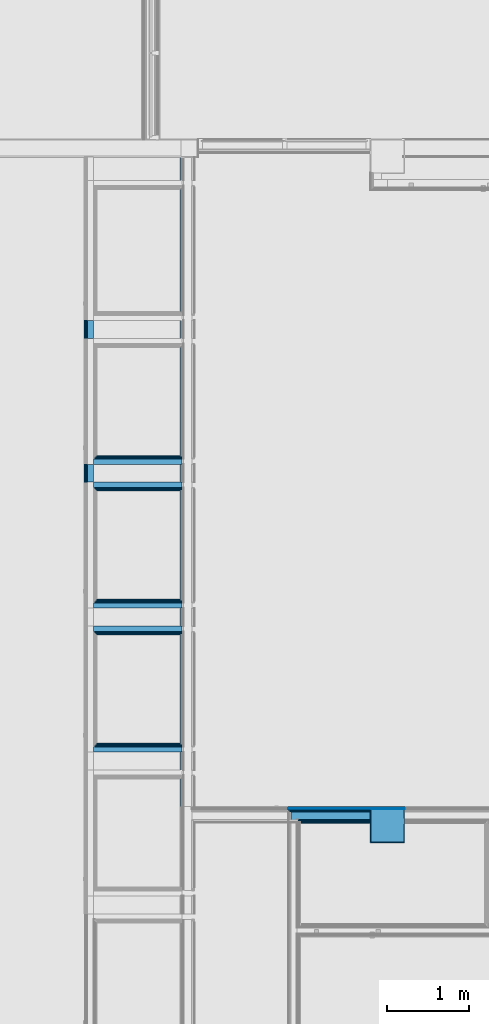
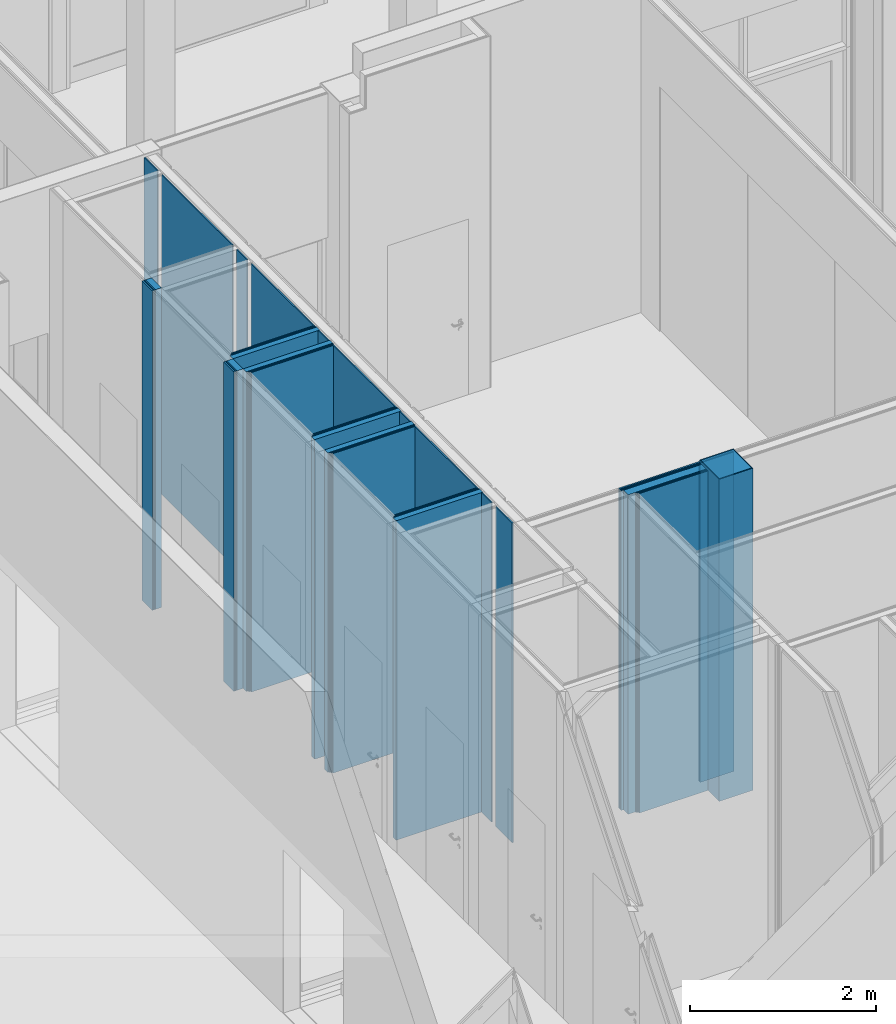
# One storey, part 206 of 260: 41 building element parts, 11 elements without a shape of their own.
"""IFC2X3 building model written with IfcOpenShell, lengths in millimetres."""

from ifc_helpers import new_model, entity, si_unit, converted_unit, derived_unit, money_unit, direction, frame, origin_with_axes, place, context, subcontext, project, spatial, faceted_brep, material, type_object, element, aggregate, save


model = new_model("IFC2X3")

# Units and contexts
model_context = context("Model", 3, precision=0.01, world=origin_with_axes(), true_north=direction((0.0, 1.0)))
body_context = subcontext(model_context, "Body", "Model", "MODEL_VIEW")
ifc_project = project(units=[si_unit("LENGTHUNIT", "METRE", prefix="MILLI"), si_unit("AREAUNIT", "SQUARE_METRE"), si_unit("VOLUMEUNIT", "CUBIC_METRE"), converted_unit("PLANEANGLEUNIT", "DEGREE", entity("IfcPlaneAngleMeasure", 0.0174532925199), si_unit("PLANEANGLEUNIT", "RADIAN"), dimensions=[0, 0, 0, 0, 0, 0, 0]), money_unit("EUR"), converted_unit("TIMEUNIT", "Year", entity("IfcTimeMeasure", 31556926.0), si_unit("TIMEUNIT", "SECOND"), dimensions=[0, 0, 1, 0, 0, 0, 0]), si_unit("MASSUNIT", "GRAM", prefix="KILO"), si_unit("THERMODYNAMICTEMPERATUREUNIT", "DEGREE_CELSIUS"), si_unit("LUMINOUSINTENSITYUNIT", "LUMEN"), si_unit("ENERGYUNIT", "JOULE", prefix="MEGA"), derived_unit("THERMALCONDUCTANCEUNIT", [(si_unit("POWERUNIT", "WATT"), 1), (si_unit("LENGTHUNIT", "METRE"), -1), (si_unit("THERMODYNAMICTEMPERATUREUNIT", "KELVIN"), -1)]), derived_unit("SPECIFICHEATCAPACITYUNIT", [(si_unit("ENERGYUNIT", "JOULE"), 1), (si_unit("MASSUNIT", "GRAM", prefix="KILO"), -1), (si_unit("THERMODYNAMICTEMPERATUREUNIT", "KELVIN"), -1)]), derived_unit("MASSDENSITYUNIT", [(si_unit("MASSUNIT", "GRAM", prefix="KILO"), 1), (si_unit("VOLUMEUNIT", "CUBIC_METRE"), -1)])], contexts=[model_context])

# Site, building, storey
site_placement = place(None, origin_with_axes())
site = spatial("IfcSite", under=ifc_project, at=site_placement, Name="Kolde pst 67a", CompositionType="ELEMENT")
building_placement = place(site_placement, origin_with_axes())
building = spatial("IfcBuilding", under=site, at=building_placement, Name="Riigigümnaasium", CompositionType="ELEMENT")
storey_placement = place(building_placement, origin_with_axes())
storey = spatial("IfcBuildingStorey", under=building, at=storey_placement, Name="1. korrus", CompositionType="ELEMENT", Elevation=0.0)

# Wall, building element parts
wall_type_1 = type_object("IfcWallType", Name="SS-MK-66/3_šahti sein+plaat 106", PredefinedType="NOTDEFINED")
wall_1_placement = place(storey_placement, frame((67450.8855661, 20599.9999713, 0.0), z_axis=(0.0, 0.0, 1.0), x_axis=(-1.0, -1.46442801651e-09, 0.0)))
wall_1 = element("IfcWall", 1, at=wall_1_placement, inside=storey, type_object=wall_type_1, Name="Sisesein")
ifc_material_1 = material(Name="_KARKASS - metallkarkass CW 75/50, mineraalvill karkassi vahel")
building_element_part_1_placement = place(wall_1_placement, origin_with_axes())
building_element_part_1 = element("IfcBuildingElementPart", 2, at=building_element_part_1_placement, material=ifc_material_1, Name="_KARKASS - metallkarkass CW 75/50, mineraalvill karkassi vahel", context=body_context, shape_type="Brep", body=[
    faceted_brep([(1074.99803065, 39.9999984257, 4185.0), (5.85771431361e-08, 40.0, 4185.0), (5.85771431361e-08, 40.0, 0.0), (1074.99803065, 39.9999984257, 0.0), (1.55225166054e-07, 106.0, 4185.0), (1074.99803074, 105.999998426, 4185.0), (1.55225166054e-07, 106.0, 0.0), (1074.99803074, 105.999998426, 0.0)], [[[0, 1, 2, 3]], [[4, 1, 0, 5]], [[1, 4, 6, 2]], [[7, 3, 2, 6]], [[5, 0, 3, 7]], [[4, 5, 7, 6]]]),
])
ifc_material_2 = material(Name="_PLAATMATERJAL - kipsplaat veekindel")
building_element_part_2_placement = place(wall_1_placement, origin_with_axes())
building_element_part_2 = element("IfcBuildingElementPart", 3, at=building_element_part_2_placement, material=ifc_material_2, Name="_PLAATMATERJAL - kipsplaat veekindel", context=body_context, shape_type="Brep", body=[
    faceted_brep([(1062.49803063, 27.499998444, 4185.0), (4.02735622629e-08, 27.5, 4185.0), (4.02735622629e-08, 27.5, 0.0), (1062.49803063, 27.499998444, 0.0), (5.85771431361e-08, 40.0, 4185.0), (1062.49803065, 39.999998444, 4185.0), (5.85771431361e-08, 40.0, 0.0), (1062.49803065, 39.999998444, 0.0)], [[[0, 1, 2, 3]], [[4, 1, 0, 5]], [[1, 4, 6, 2]], [[7, 3, 2, 6]], [[5, 0, 3, 7]], [[4, 5, 7, 6]]]),
])
building_element_part_3_placement = place(wall_1_placement, origin_with_axes())
building_element_part_3 = element("IfcBuildingElementPart", 4, at=building_element_part_3_placement, material=ifc_material_2, Name="_PLAATMATERJAL - kipsplaat veekindel", context=body_context, shape_type="Brep", body=[
    faceted_brep([(1049.99803061, 14.9999984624, 4185.0), (4.99982619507, 14.9999999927, 4185.0), (4.99982619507, 14.9999999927, 0.0), (1049.99803061, 14.9999984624, 0.0), (4.99983370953, 27.4999999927, 4185.0), (1049.99803063, 27.4999984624, 4185.0), (4.99983370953, 27.4999999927, 0.0), (1049.99803063, 27.4999984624, 0.0)], [[[0, 1, 2, 3]], [[4, 1, 0, 5]], [[1, 4, 6, 2]], [[3, 2, 6, 7]], [[5, 0, 3, 7]], [[4, 5, 7, 6]]]),
])
ifc_material_3 = material(Name="_VIIMISTLUSKIHT - viimistlus vastavalt SA osale")
building_element_part_4_placement = place(wall_1_placement, origin_with_axes())
building_element_part_4 = element("IfcBuildingElementPart", 5, at=building_element_part_4_placement, material=ifc_material_3, Name="_VIIMISTLUSKIHT - viimistlus vastavalt SA osale", context=body_context, shape_type="Brep", body=[
    faceted_brep([(1034.99803059, -1.51568002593e-06, 0.0), (1034.99803059, -1.51568002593e-06, 4185.0), (19.9998171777, -2.9288571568e-08, 4185.0), (19.9998171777, -2.9288571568e-08, 0.0), (1034.99803061, 14.9999984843, 0.0), (1034.99803061, 14.9999984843, 4185.0), (19.9998261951, 14.9999999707, 4185.0), (19.9998261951, 14.9999999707, 0.0)], [[[0, 1, 2, 3]], [[4, 5, 1, 0]], [[5, 6, 2, 1]], [[3, 2, 6, 7]], [[4, 0, 3, 7]], [[7, 6, 5, 4]]]),
])
aggregate(wall_1, [building_element_part_1, building_element_part_2, building_element_part_3, building_element_part_4])

wall_2_placement = place(storey_placement, frame((67450.8845166, 18849.9999712, 0.0), z_axis=(0.0, 0.0, 1.0), x_axis=(-1.0, 0.0, 0.0)))
wall_2 = element("IfcWall", 6, at=wall_2_placement, inside=storey, type_object=wall_type_1, Name="Sisesein")
building_element_part_5_placement = place(wall_2_placement, origin_with_axes())
building_element_part_5 = element("IfcBuildingElementPart", 7, at=building_element_part_5_placement, material=ifc_material_1, Name="_KARKASS - metallkarkass CW 75/50, mineraalvill karkassi vahel", context=body_context, shape_type="Brep", body=[
    faceted_brep([(1074.99698113, 40.0, 4185.0), (0.0, 40.0, 4185.0), (0.0, 40.0, 0.0), (1074.99698113, 40.0, 0.0), (0.0, 106.0, 4185.0), (1074.99698113, 106.0, 4185.0), (0.0, 106.0, 0.0), (1074.99698113, 106.0, 0.0)], [[[0, 1, 2, 3]], [[4, 1, 0, 5]], [[1, 4, 6, 2]], [[7, 3, 2, 6]], [[5, 0, 3, 7]], [[4, 5, 7, 6]]]),
])
building_element_part_6_placement = place(wall_2_placement, origin_with_axes())
building_element_part_6 = element("IfcBuildingElementPart", 8, at=building_element_part_6_placement, material=ifc_material_2, Name="_PLAATMATERJAL - kipsplaat veekindel", context=body_context, shape_type="Brep", body=[
    faceted_brep([(1062.49698113, 27.5, 4185.0), (0.0, 27.5, 4185.0), (0.0, 27.5, 0.0), (1062.49698113, 27.5, 0.0), (0.0, 40.0, 4185.0), (1062.49698113, 40.0, 4185.0), (0.0, 40.0, 0.0), (1062.49698113, 40.0, 0.0)], [[[0, 1, 2, 3]], [[4, 1, 0, 5]], [[1, 4, 6, 2]], [[7, 3, 2, 6]], [[5, 0, 3, 7]], [[4, 5, 7, 6]]]),
])
building_element_part_7_placement = place(wall_2_placement, origin_with_axes())
building_element_part_7 = element("IfcBuildingElementPart", 9, at=building_element_part_7_placement, material=ifc_material_2, Name="_PLAATMATERJAL - kipsplaat veekindel", context=body_context, shape_type="Brep", body=[
    faceted_brep([(1049.99698113, 15.0, 4185.0), (4.9998261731, 15.0, 4185.0), (4.9998261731, 15.0, 0.0), (1049.99698113, 15.0, 0.0), (4.99983366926, 27.5, 4185.0), (1049.99698113, 27.5, 4185.0), (4.99983366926, 27.5, 0.0), (1049.99698113, 27.5, 0.0)], [[[0, 1, 2, 3]], [[4, 1, 0, 5]], [[1, 4, 6, 2]], [[3, 2, 6, 7]], [[5, 0, 3, 7]], [[4, 5, 7, 6]]]),
])
building_element_part_8_placement = place(wall_2_placement, origin_with_axes())
building_element_part_8 = element("IfcBuildingElementPart", 10, at=building_element_part_8_placement, material=ifc_material_3, Name="_VIIMISTLUSKIHT - viimistlus vastavalt SA osale", context=body_context, shape_type="Brep", body=[
    faceted_brep([(1034.99698113, 0.0, 4185.0), (19.9998171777, 0.0, 4185.0), (19.9998171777, 0.0, 0.0), (1034.99698113, 0.0, 0.0), (19.9998261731, 15.0, 4185.0), (1034.99698113, 15.0, 4185.0), (19.9998261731, 15.0, 0.0), (1034.99698113, 15.0, 0.0)], [[[0, 1, 2, 3]], [[4, 1, 0, 5]], [[1, 4, 6, 2]], [[3, 2, 6, 7]], [[5, 0, 3, 7]], [[4, 5, 7, 6]]]),
])
aggregate(wall_2, [building_element_part_5, building_element_part_6, building_element_part_7, building_element_part_8])

wall_3_placement = place(storey_placement, frame((67450.8834672, 17099.9999712, 0.0), z_axis=(0.0, 0.0, 1.0), x_axis=(-1.0, 0.0, 0.0)))
wall_3 = element("IfcWall", 11, at=wall_3_placement, inside=storey, type_object=wall_type_1, Name="Sisesein")
building_element_part_9_placement = place(wall_3_placement, origin_with_axes())
building_element_part_9 = element("IfcBuildingElementPart", 12, at=building_element_part_9_placement, material=ifc_material_1, Name="_KARKASS - metallkarkass CW 75/50, mineraalvill karkassi vahel", context=body_context, shape_type="Brep", body=[
    faceted_brep([(1074.99593166, 40.0, 4185.0), (0.0, 40.0, 4185.0), (0.0, 40.0, 0.0), (1074.99593166, 40.0, 0.0), (0.0, 106.0, 4185.0), (1074.99593166, 106.0, 4185.0), (0.0, 106.0, 0.0), (1074.99593166, 106.0, 0.0)], [[[0, 1, 2, 3]], [[4, 1, 0, 5]], [[1, 4, 6, 2]], [[7, 3, 2, 6]], [[5, 0, 3, 7]], [[4, 5, 7, 6]]]),
])
building_element_part_10_placement = place(wall_3_placement, origin_with_axes())
building_element_part_10 = element("IfcBuildingElementPart", 13, at=building_element_part_10_placement, material=ifc_material_2, Name="_PLAATMATERJAL - kipsplaat veekindel", context=body_context, shape_type="Brep", body=[
    faceted_brep([(1062.49593166, 27.5, 4185.0), (0.0, 27.5, 4185.0), (0.0, 27.5, 0.0), (1062.49593166, 27.5, 0.0), (0.0, 40.0, 4185.0), (1062.49593166, 40.0, 4185.0), (0.0, 40.0, 0.0), (1062.49593166, 40.0, 0.0)], [[[0, 1, 2, 3]], [[4, 1, 0, 5]], [[1, 4, 6, 2]], [[7, 3, 2, 6]], [[5, 0, 3, 7]], [[4, 5, 7, 6]]]),
])
building_element_part_11_placement = place(wall_3_placement, origin_with_axes())
building_element_part_11 = element("IfcBuildingElementPart", 14, at=building_element_part_11_placement, material=ifc_material_2, Name="_PLAATMATERJAL - kipsplaat veekindel", context=body_context, shape_type="Brep", body=[
    faceted_brep([(1049.99593166, 15.0, 4185.0), (4.99982617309, 15.0, 4185.0), (4.99982617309, 15.0, 0.0), (1049.99593166, 15.0, 0.0), (4.99983366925, 27.5, 4185.0), (1049.99593166, 27.5, 4185.0), (4.99983366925, 27.5, 0.0), (1049.99593166, 27.5, 0.0)], [[[0, 1, 2, 3]], [[4, 1, 0, 5]], [[1, 4, 6, 2]], [[3, 2, 6, 7]], [[5, 0, 3, 7]], [[4, 5, 7, 6]]]),
])
building_element_part_12_placement = place(wall_3_placement, origin_with_axes())
building_element_part_12 = element("IfcBuildingElementPart", 15, at=building_element_part_12_placement, material=ifc_material_3, Name="_VIIMISTLUSKIHT - viimistlus vastavalt SA osale", context=body_context, shape_type="Brep", body=[
    faceted_brep([(1034.99593166, 0.0, 4185.0), (19.9998171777, 0.0, 4185.0), (19.9998171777, 0.0, 0.0), (1034.99593166, 0.0, 0.0), (19.9998261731, 15.0, 4185.0), (1034.99593166, 15.0, 4185.0), (19.9998261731, 15.0, 0.0), (1034.99593166, 15.0, 0.0)], [[[0, 1, 2, 3]], [[4, 1, 0, 5]], [[1, 4, 6, 2]], [[3, 2, 6, 7]], [[5, 0, 3, 7]], [[4, 5, 7, 6]]]),
])
aggregate(wall_3, [building_element_part_9, building_element_part_10, building_element_part_11, building_element_part_12])

wall_4_placement = place(storey_placement, frame((67450.8842588, 18420.0776307, 0.0), z_axis=(0.0, 0.0, 1.0), x_axis=(-1.0, -7.2733733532e-07, 0.0)))
wall_4 = element("IfcWall", 16, at=wall_4_placement, inside=storey, type_object=wall_type_1, Name="Varisein")
building_element_part_13_placement = place(wall_4_placement, origin_with_axes())
building_element_part_13 = element("IfcBuildingElementPart", 17, at=building_element_part_13_placement, material=ifc_material_3, Name="_VIIMISTLUSKIHT - viimistlus vastavalt SA osale", context=body_context, shape_type="Brep", body=[
    faceted_brep([(1034.99671239, -15.0, 4185.0), (19.9997972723, -15.0, 4185.0), (19.9997972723, -15.0, 0.0), (1034.99671239, -15.0, 0.0), (19.9998171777, 0.0, 4185.0), (1034.9967233, 0.0, 4185.0), (19.9998171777, 0.0, 0.0), (1034.9967233, 0.0, 0.0)], [[[0, 1, 2, 3]], [[4, 1, 0, 5]], [[1, 4, 6, 2]], [[3, 2, 6, 7]], [[5, 0, 3, 7]], [[4, 5, 7, 6]]]),
])
building_element_part_14_placement = place(wall_4_placement, origin_with_axes())
building_element_part_14 = element("IfcBuildingElementPart", 18, at=building_element_part_14_placement, material=ifc_material_2, Name="_PLAATMATERJAL - kipsplaat veekindel", context=body_context, shape_type="Brep", body=[
    faceted_brep([(1049.9967033, -27.5, 4185.0), (4.9997806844, -27.5, 4185.0), (4.9997806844, -27.5, 0.0), (1049.9967033, -27.5, 0.0), (4.99979727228, -15.0, 4185.0), (1049.99671239, -15.0, 4185.0), (4.99979727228, -15.0, 0.0), (1049.99671239, -15.0, 0.0)], [[[0, 1, 2, 3]], [[4, 1, 0, 5]], [[1, 4, 6, 2]], [[3, 2, 6, 7]], [[5, 0, 3, 7]], [[4, 5, 7, 6]]]),
])
building_element_part_15_placement = place(wall_4_placement, origin_with_axes())
building_element_part_15 = element("IfcBuildingElementPart", 19, at=building_element_part_15_placement, material=ifc_material_2, Name="_PLAATMATERJAL - kipsplaat veekindel", context=body_context, shape_type="Brep", body=[
    faceted_brep([(1062.49669421, -40.0, 4185.0), (0.0, -40.0, 4185.0), (0.0, -40.0, 0.0), (1062.49669421, -40.0, 0.0), (0.0, -27.5, 4185.0), (1062.4967033, -27.5, 4185.0), (0.0, -27.5, 0.0), (1062.4967033, -27.5, 0.0)], [[[0, 1, 2, 3]], [[4, 1, 0, 5]], [[1, 4, 6, 2]], [[7, 3, 2, 6]], [[5, 0, 3, 7]], [[4, 5, 7, 6]]]),
])
building_element_part_16_placement = place(wall_4_placement, origin_with_axes())
building_element_part_16 = element("IfcBuildingElementPart", 20, at=building_element_part_16_placement, material=ifc_material_1, Name="_KARKASS - metallkarkass CW 75/50, mineraalvill karkassi vahel", context=body_context, shape_type="Brep", body=[
    faceted_brep([(1074.99664621, -106.0, 4185.0), (0.0, -106.0, 4185.0), (0.0, -106.0, 0.0), (1074.99664621, -106.0, 0.0), (0.0, -40.0, 4185.0), (1074.99669421, -40.0, 4185.0), (0.0, -40.0, 0.0), (1074.99669421, -40.0, 0.0)], [[[0, 1, 2, 3]], [[4, 1, 0, 5]], [[1, 4, 6, 2]], [[7, 3, 2, 6]], [[5, 0, 3, 7]], [[4, 5, 7, 6]]]),
])
aggregate(wall_4, [building_element_part_13, building_element_part_14, building_element_part_15, building_element_part_16])

wall_5_placement = place(storey_placement, frame((67450.8853083, 20170.0776307, 0.0), z_axis=(0.0, 0.0, 1.0), x_axis=(-1.0, -7.273373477e-07, 0.0)))
wall_5 = element("IfcWall", 21, at=wall_5_placement, inside=storey, type_object=wall_type_1, Name="Varisein")
building_element_part_17_placement = place(wall_5_placement, origin_with_axes())
building_element_part_17 = element("IfcBuildingElementPart", 22, at=building_element_part_17_placement, material=ifc_material_3, Name="_VIIMISTLUSKIHT - viimistlus vastavalt SA osale", context=body_context, shape_type="Brep", body=[
    faceted_brep([(1034.99776186, -15.0, 4185.0), (19.9997972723, -15.0, 4185.0), (19.9997972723, -15.0, 0.0), (1034.99776186, -15.0, 0.0), (19.9998171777, 0.0, 4185.0), (1034.99777277, 0.0, 4185.0), (19.9998171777, 0.0, 0.0), (1034.99777277, 0.0, 0.0)], [[[0, 1, 2, 3]], [[4, 1, 0, 5]], [[1, 4, 6, 2]], [[3, 2, 6, 7]], [[5, 0, 3, 7]], [[4, 5, 7, 6]]]),
])
building_element_part_18_placement = place(wall_5_placement, origin_with_axes())
building_element_part_18 = element("IfcBuildingElementPart", 23, at=building_element_part_18_placement, material=ifc_material_2, Name="_PLAATMATERJAL - kipsplaat veekindel", context=body_context, shape_type="Brep", body=[
    faceted_brep([(1049.99775276, -27.5, 4185.0), (4.99978068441, -27.5, 4185.0), (4.99978068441, -27.5, 0.0), (1049.99775276, -27.5, 0.0), (4.99979727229, -15.0, 4185.0), (1049.99776186, -15.0, 4185.0), (4.99979727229, -15.0, 0.0), (1049.99776186, -15.0, 0.0)], [[[0, 1, 2, 3]], [[4, 1, 0, 5]], [[1, 4, 6, 2]], [[3, 2, 6, 7]], [[5, 0, 3, 7]], [[4, 5, 7, 6]]]),
])
building_element_part_19_placement = place(wall_5_placement, origin_with_axes())
building_element_part_19 = element("IfcBuildingElementPart", 24, at=building_element_part_19_placement, material=ifc_material_2, Name="_PLAATMATERJAL - kipsplaat veekindel", context=body_context, shape_type="Brep", body=[
    faceted_brep([(1062.49774367, -40.0, 4185.0), (0.0, -40.0, 4185.0), (0.0, -40.0, 0.0), (1062.49774367, -40.0, 0.0), (0.0, -27.5, 4185.0), (1062.49775276, -27.5, 4185.0), (0.0, -27.5, 0.0), (1062.49775276, -27.5, 0.0)], [[[0, 1, 2, 3]], [[4, 1, 0, 5]], [[1, 4, 6, 2]], [[7, 3, 2, 6]], [[5, 0, 3, 7]], [[4, 5, 7, 6]]]),
])
building_element_part_20_placement = place(wall_5_placement, origin_with_axes())
building_element_part_20 = element("IfcBuildingElementPart", 25, at=building_element_part_20_placement, material=ifc_material_1, Name="_KARKASS - metallkarkass CW 75/50, mineraalvill karkassi vahel", context=body_context, shape_type="Brep", body=[
    faceted_brep([(1074.99769567, -106.0, 4185.0), (0.0, -106.0, 4185.0), (0.0, -106.0, 0.0), (1074.99769567, -106.0, 0.0), (0.0, -40.0, 4185.0), (1074.99774367, -40.0, 4185.0), (0.0, -40.0, 0.0), (1074.99774367, -40.0, 0.0)], [[[0, 1, 2, 3]], [[4, 1, 0, 5]], [[1, 4, 6, 2]], [[7, 3, 2, 6]], [[5, 0, 3, 7]], [[4, 5, 7, 6]]]),
])
aggregate(wall_5, [building_element_part_17, building_element_part_18, building_element_part_19, building_element_part_20])

# Column, building element parts
column_type = type_object("IfcColumnType", Name="_KANDETARIND - raudbetoon C25/30 vastavalt EK osale 420 x 420", PredefinedType="COLUMN")
column_placement = place(storey_placement, frame((69949.9992883, 16100.0095543, 0.0), z_axis=(0.0, 0.0, 1.0), x_axis=(1.0, 0.0, 0.0)))
column = element("IfcColumn", 26, at=column_placement, inside=storey, type_object=column_type, Name="POST", ObjectType="COLUMN")
ifc_material_4 = material(Name="_VIIMISTLUSKIHT - puit")
building_element_part_21_placement = place(column_placement, origin_with_axes())
building_element_part_21 = element("IfcBuildingElementPart", 27, at=building_element_part_21_placement, material=ifc_material_4, Name="_VIIMISTLUSKIHT - puit", context=body_context, shape_type="Brep", body=[
    faceted_brep([(-210.0, -210.0, 0.0), (-210.0, -210.0, 4220.0), (-210.0, 210.0, 4220.0), (-210.0, 210.0, 0.0), (210.0, -210.0, 0.0), (210.0, -210.0, 4220.0), (210.0, 210.0, 4220.0), (-199.999997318, 199.999997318, 4220.0), (199.999997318, 199.999997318, 4220.0), (199.999997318, -199.999997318, 4220.0), (-199.999997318, -199.999997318, 4220.0), (210.0, 210.0, 0.0), (199.999997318, -199.999997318, 0.0), (199.999997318, 199.999997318, 0.0), (-199.999997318, 199.999997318, 0.0), (-199.999997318, -199.999997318, 0.0)], [[[0, 1, 2, 3]], [[4, 5, 1, 0]], [[1, 5, 6, 2], [7, 8, 9, 10]], [[3, 2, 6, 11]], [[11, 4, 0, 3], [12, 13, 14, 15]], [[11, 6, 5, 4]], [[13, 8, 7, 14]], [[12, 9, 8, 13]], [[15, 10, 9, 12]], [[14, 7, 10, 15]]]),
])
ifc_material_5 = material(Name="_KANDETARIND - raudbetoon C25/30 vastavalt EK osale")
building_element_part_22_placement = place(column_placement, origin_with_axes())
building_element_part_22 = element("IfcBuildingElementPart", 28, at=building_element_part_22_placement, material=ifc_material_5, Name="_KANDETARIND - raudbetoon C25/30 vastavalt EK osale", context=body_context, shape_type="Brep", body=[
    faceted_brep([(-200.0, -200.0, 4220.0), (-200.0, -200.0, 0.0), (200.0, -200.0, 0.0), (200.0, -200.0, 4220.0), (-200.0, 200.0, 4220.0), (-200.0, 200.0, 0.0), (200.0, 200.0, 0.0), (200.0, 200.0, 4220.0)], [[[0, 1, 2, 3]], [[4, 5, 1, 0]], [[2, 1, 5, 6]], [[3, 2, 6, 7]], [[4, 0, 3, 7]], [[7, 6, 5, 4]]]),
])
aggregate(column, [building_element_part_21, building_element_part_22])

# Wall, building element parts
wall_type_2 = type_object("IfcWallType", Name="SS-PK-10/2_vill100+dold+plaat 200", PredefinedType="NOTDEFINED")
wall_6_placement = place(storey_placement, frame((69739.9992375, 16130.0095543, 0.0), z_axis=(0.0, 0.0, 1.0), x_axis=(-1.0, 7.18879924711e-07, 0.0)))
wall_6 = element("IfcWall", 29, at=wall_6_placement, inside=storey, type_object=wall_type_2, Name="Sisesein")
building_element_part_23_placement = place(wall_6_placement, origin_with_axes())
building_element_part_23 = element("IfcBuildingElementPart", 30, at=building_element_part_23_placement, material=ifc_material_3, Name="_VIIMISTLUSKIHT - viimistlus vastavalt SA osale", context=body_context, shape_type="Brep", body=[
    faceted_brep([(849.999770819, -15.0, 4185.0), (0.0, -15.0, 4185.0), (0.0, -15.0, 0.0), (849.999770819, -15.0, 0.0), (0.0, 0.0, 4185.0), (849.999760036, 0.0, 4185.0), (0.0, 0.0, 0.0), (849.999760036, 0.0, 0.0)], [[[0, 1, 2, 3]], [[4, 1, 0, 5]], [[1, 4, 6, 2]], [[7, 3, 2, 6]], [[5, 0, 3, 7]], [[4, 5, 7, 6]]]),
])
building_element_part_24_placement = place(wall_6_placement, origin_with_axes())
building_element_part_24 = element("IfcBuildingElementPart", 31, at=building_element_part_24_placement, material=ifc_material_2, Name="_PLAATMATERJAL - kipsplaat veekindel", context=body_context, shape_type="Brep", body=[
    faceted_brep([(864.999779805, -27.5, 4185.0), (0.0, -27.5, 4185.0), (0.0, -27.5, 0.0), (864.999779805, -27.5, 0.0), (0.0, -15.0, 4185.0), (864.999770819, -15.0, 4185.0), (0.0, -15.0, 0.0), (864.999770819, -15.0, 0.0)], [[[0, 1, 2, 3]], [[4, 1, 0, 5]], [[1, 4, 6, 2]], [[7, 3, 2, 6]], [[5, 0, 3, 7]], [[4, 5, 7, 6]]]),
])
building_element_part_25_placement = place(wall_6_placement, origin_with_axes())
building_element_part_25 = element("IfcBuildingElementPart", 32, at=building_element_part_25_placement, material=ifc_material_2, Name="_PLAATMATERJAL - kipsplaat veekindel", context=body_context, shape_type="Brep", body=[
    faceted_brep([(877.499788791, -40.0, 4185.0), (0.0, -40.0, 4185.0), (0.0, -40.0, 0.0), (877.499788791, -40.0, 0.0), (0.0, -27.5, 4185.0), (877.499779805, -27.5, 4185.0), (0.0, -27.5, 0.0), (877.499779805, -27.5, 0.0)], [[[0, 1, 2, 3]], [[4, 1, 0, 5]], [[1, 4, 6, 2]], [[7, 3, 2, 6]], [[5, 0, 3, 7]], [[4, 5, 7, 6]]]),
])
ifc_material_6 = material(Name="_KARKASS - puitpruss 100x50mm vertikaalne, samm 600mm, vahel mineraalvill, helineeldetegur αw = 1.0, ISOVER ACOUSTIC 100mm või samaväärne")
building_element_part_26_placement = place(wall_6_placement, origin_with_axes())
building_element_part_26 = element("IfcBuildingElementPart", 33, at=building_element_part_26_placement, material=ifc_material_6, Name="_KARKASS - puitpruss 100x50mm vertikaalne, samm 600mm, vahel mineraalvill, helineeldetegur αw = 1.0, ISOVER ACOUSTIC 100mm või samaväärne", context=body_context, shape_type="Brep", body=[
    faceted_brep([(964.999860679, -140.0, 4185.0), (0.0, -140.0, 4185.0), (0.0, -140.0, 0.0), (964.999860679, -140.0, 0.0), (0.0, -40.0, 4185.0), (964.999788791, -40.0, 4185.0), (0.0, -40.0, 0.0), (964.999788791, -40.0, 0.0)], [[[0, 1, 2, 3]], [[4, 1, 0, 5]], [[1, 4, 6, 2]], [[7, 3, 2, 6]], [[5, 0, 3, 7]], [[4, 5, 7, 6]]]),
])
ifc_material_7 = material(Name="_PLAATMATERJAL - tuletõkkekipsplaat, Knauf Red GKF või samaväärne")
building_element_part_27_placement = place(wall_6_placement, origin_with_axes())
building_element_part_27 = element("IfcBuildingElementPart", 34, at=building_element_part_27_placement, material=ifc_material_7, Name="_PLAATMATERJAL - tuletõkkekipsplaat, Knauf Red GKF või samaväärne", context=body_context, shape_type="Brep", body=[
    faceted_brep([(994.999871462, -155.0, 4185.0), (0.0, -155.0, 4185.0), (0.0, -155.0, 0.0), (994.999871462, -155.0, 0.0), (0.0, -140.0, 4185.0), (994.999860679, -140.0, 4185.0), (0.0, -140.0, 0.0), (994.999860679, -140.0, 0.0)], [[[0, 1, 2, 3]], [[4, 1, 0, 5]], [[1, 4, 6, 2]], [[7, 3, 2, 6]], [[5, 0, 3, 7]], [[4, 5, 7, 6]]]),
])
building_element_part_28_placement = place(wall_6_placement, origin_with_axes())
building_element_part_28 = element("IfcBuildingElementPart", 35, at=building_element_part_28_placement, material=ifc_material_7, Name="_PLAATMATERJAL - tuletõkkekipsplaat, Knauf Red GKF või samaväärne", context=body_context, shape_type="Brep", body=[
    faceted_brep([(994.999882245, -170.0, 4185.0), (0.0, -170.0, 4185.0), (0.0, -170.0, 0.0), (994.999882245, -170.0, 0.0), (0.0, -155.0, 4185.0), (994.999871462, -155.0, 4185.0), (0.0, -155.0, 0.0), (994.999871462, -155.0, 0.0)], [[[0, 1, 2, 3]], [[4, 1, 0, 5]], [[1, 4, 6, 2]], [[7, 3, 2, 6]], [[5, 0, 3, 7]], [[4, 5, 7, 6]]]),
])
ifc_material_8 = material(Name="_KARKASS - eriprofiilkinnitus vastavalt sisemisele plaatviimistlusele")
building_element_part_29_placement = place(wall_6_placement, origin_with_axes())
building_element_part_29 = element("IfcBuildingElementPart", 36, at=building_element_part_29_placement, material=ifc_material_8, Name="_KARKASS - eriprofiilkinnitus vastavalt sisemisele plaatviimistlusele", context=body_context, shape_type="Brep", body=[
    faceted_brep([(994.999889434, -180.0, 4185.0), (0.0, -180.0, 4185.0), (0.0, -180.0, 0.0), (994.999889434, -180.0, 0.0), (0.0, -170.0, 4185.0), (994.999882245, -170.0, 4185.0), (0.0, -170.0, 0.0), (994.999882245, -170.0, 0.0)], [[[0, 1, 2, 3]], [[4, 1, 0, 5]], [[1, 4, 6, 2]], [[7, 3, 2, 6]], [[5, 0, 3, 7]], [[4, 5, 7, 6]]]),
])
building_element_part_30_placement = place(wall_6_placement, origin_with_axes())
building_element_part_30 = element("IfcBuildingElementPart", 37, at=building_element_part_30_placement, material=ifc_material_3, Name="_VIIMISTLUSKIHT - viimistlus vastavalt SA osale", context=body_context, shape_type="Brep", body=[
    faceted_brep([(994.999903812, -200.0, 4185.0), (0.0, -200.0, 4185.0), (0.0, -200.0, 0.0), (994.999903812, -200.0, 0.0), (0.0, -180.0, 4185.0), (994.999889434, -180.0, 4185.0), (0.0, -180.0, 0.0), (994.999889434, -180.0, 0.0)], [[[0, 1, 2, 3]], [[4, 1, 0, 5]], [[1, 4, 6, 2]], [[7, 3, 2, 6]], [[5, 0, 3, 7]], [[4, 5, 7, 6]]]),
])
aggregate(wall_6, [building_element_part_23, building_element_part_24, building_element_part_25, building_element_part_26, building_element_part_27, building_element_part_28, building_element_part_29, building_element_part_30])

wall_type_3 = type_object("IfcWallType", Name="SS-MK-1/1_1x dold pinnakiht 30", PredefinedType="NOTDEFINED")
wall_7_placement = place(storey_placement, frame((69739.9993598, 16300.0095543, 0.0), z_axis=(0.0, 0.0, 1.0), x_axis=(1.0, -7.2889781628e-07, 0.0)))
wall_7 = element("IfcWall", 38, at=wall_7_placement, inside=storey, type_object=wall_type_3, Name="Sisesein")
ifc_material_9 = material(Name="_VIIMISTLUSKIHT - Dold plaat vastavalt SA osale")
building_element_part_31_placement = place(wall_7_placement, origin_with_axes())
building_element_part_31 = element("IfcBuildingElementPart", 39, at=building_element_part_31_placement, material=ifc_material_9, Name="_VIIMISTLUSKIHT - Dold plaat vastavalt SA osale", context=body_context, shape_type="Brep", body=[
    faceted_brep([(420.000062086, 30.0, 4185.0), (420.000062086, 30.0, 0.0), (0.0, 30.0, 0.0), (0.0, 30.0, 4185.0), (420.000062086, 10.0, 4185.0), (420.000062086, 10.0, 0.0), (0.0, 10.0, 0.0), (0.0, 10.0, 4185.0)], [[[0, 1, 2, 3]], [[0, 4, 5, 1]], [[2, 1, 5, 6]], [[7, 3, 2, 6]], [[4, 0, 3, 7]], [[4, 7, 6, 5]]]),
])
building_element_part_32_placement = place(wall_7_placement, origin_with_axes())
building_element_part_32 = element("IfcBuildingElementPart", 40, at=building_element_part_32_placement, material=ifc_material_8, Name="_KARKASS - eriprofiilkinnitus vastavalt sisemisele plaatviimistlusele", context=body_context, shape_type="Brep", body=[
    faceted_brep([(420.000062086, 10.0, 4185.0), (420.000062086, 10.0, 0.0), (0.0, 10.0, 0.0), (0.0, 10.0, 4185.0), (420.000062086, 0.0, 4185.0), (420.000062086, 0.0, 0.0), (0.0, 0.0, 0.0), (0.0, 0.0, 4185.0)], [[[0, 1, 2, 3]], [[0, 4, 5, 1]], [[2, 1, 5, 6]], [[7, 3, 2, 6]], [[4, 0, 3, 7]], [[4, 7, 6, 5]]]),
])
aggregate(wall_7, [building_element_part_31, building_element_part_32])

wall_type_4 = type_object("IfcWallType", Name="SS-MK-7,5/_plaatvarisein 115", PredefinedType="NOTDEFINED")
wall_8_placement = place(storey_placement, frame((66260.8875355, 20276.0768488, 0.0), z_axis=(0.0, 0.0, 1.0), x_axis=(0.0, 1.0, 0.0)))
wall_8 = element("IfcWall", 41, at=wall_8_placement, inside=storey, type_object=wall_type_4, Name="Sisesein")
building_element_part_33_placement = place(wall_8_placement, origin_with_axes())
building_element_part_33 = element("IfcBuildingElementPart", 42, at=building_element_part_33_placement, material=ifc_material_3, Name="_VIIMISTLUSKIHT - viimistlus vastavalt SA osale", context=body_context, shape_type="Brep", body=[
    faceted_brep([(217.92312092, 0.0, 4185.0), (217.92312092, -15.0, 4185.0), (217.92312092, -15.0, 0.0), (217.92312092, 0.0, 0.0), (0.0, -15.0, 4185.0), (0.0, 0.0, 4185.0), (0.0, -15.0, 0.0), (0.0, 0.0, 0.0)], [[[0, 1, 2, 3]], [[4, 1, 0, 5]], [[1, 4, 6, 2]], [[7, 3, 2, 6]], [[5, 0, 3, 7]], [[4, 5, 7, 6]]]),
])
building_element_part_34_placement = place(wall_8_placement, origin_with_axes())
building_element_part_34 = element("IfcBuildingElementPart", 43, at=building_element_part_34_placement, material=ifc_material_2, Name="_PLAATMATERJAL - kipsplaat veekindel", context=body_context, shape_type="Brep", body=[
    faceted_brep([(217.92312092, -15.0, 4185.0), (217.92312092, -27.5, 4185.0), (217.92312092, -27.5, 0.0), (217.92312092, -15.0, 0.0), (0.0, -27.5, 4185.0), (0.0, -15.0, 4185.0), (0.0, -27.5, 0.0), (0.0, -15.0, 0.0)], [[[0, 1, 2, 3]], [[4, 1, 0, 5]], [[1, 4, 6, 2]], [[7, 3, 2, 6]], [[5, 0, 3, 7]], [[4, 5, 7, 6]]]),
])
building_element_part_35_placement = place(wall_8_placement, origin_with_axes())
building_element_part_35 = element("IfcBuildingElementPart", 44, at=building_element_part_35_placement, material=ifc_material_2, Name="_PLAATMATERJAL - kipsplaat veekindel", context=body_context, shape_type="Brep", body=[
    faceted_brep([(217.92312092, -27.5, 4185.0), (217.92312092, -40.0, 4185.0), (217.92312092, -40.0, 0.0), (217.92312092, -27.5, 0.0), (0.0, -40.0, 4185.0), (0.0, -27.5, 4185.0), (0.0, -40.0, 0.0), (0.0, -27.5, 0.0)], [[[0, 1, 2, 3]], [[4, 1, 0, 5]], [[1, 4, 6, 2]], [[7, 3, 2, 6]], [[5, 0, 3, 7]], [[4, 5, 7, 6]]]),
])
building_element_part_36_placement = place(wall_8_placement, origin_with_axes())
building_element_part_36 = element("IfcBuildingElementPart", 45, at=building_element_part_36_placement, material=ifc_material_1, Name="_KARKASS - metallkarkass CW 75/50, mineraalvill karkassi vahel", context=body_context, shape_type="Brep", body=[
    faceted_brep([(217.92312092, -40.0, 4185.0), (217.92312092, -115.0, 4185.0), (217.92312092, -115.0, 0.0), (217.92312092, -40.0, 0.0), (0.0, -115.0, 4185.0), (0.0, -40.0, 4185.0), (0.0, -115.0, 0.0), (0.0, -40.0, 0.0)], [[[0, 1, 2, 3]], [[4, 1, 0, 5]], [[1, 4, 6, 2]], [[7, 3, 2, 6]], [[5, 0, 3, 7]], [[4, 5, 7, 6]]]),
])
aggregate(wall_8, [building_element_part_33, building_element_part_34, building_element_part_35, building_element_part_36])

wall_9_placement = place(storey_placement, frame((66260.8875355, 22026.0768503, 0.0), z_axis=(0.0, 0.0, 1.0), x_axis=(0.0, 1.0, 0.0)))
wall_9 = element("IfcWall", 46, at=wall_9_placement, inside=storey, type_object=wall_type_4, Name="Sisesein")
building_element_part_37_placement = place(wall_9_placement, origin_with_axes())
building_element_part_37 = element("IfcBuildingElementPart", 47, at=building_element_part_37_placement, material=ifc_material_3, Name="_VIIMISTLUSKIHT - viimistlus vastavalt SA osale", context=body_context, shape_type="Brep", body=[
    faceted_brep([(217.923122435, 0.0, 4185.0), (217.923122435, -15.0, 4185.0), (217.923122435, -15.0, 0.0), (217.923122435, 0.0, 0.0), (0.0, -15.0, 4185.0), (0.0, 0.0, 4185.0), (0.0, -15.0, 0.0), (0.0, 0.0, 0.0)], [[[0, 1, 2, 3]], [[4, 1, 0, 5]], [[1, 4, 6, 2]], [[7, 3, 2, 6]], [[5, 0, 3, 7]], [[4, 5, 7, 6]]]),
])
building_element_part_38_placement = place(wall_9_placement, origin_with_axes())
building_element_part_38 = element("IfcBuildingElementPart", 48, at=building_element_part_38_placement, material=ifc_material_2, Name="_PLAATMATERJAL - kipsplaat veekindel", context=body_context, shape_type="Brep", body=[
    faceted_brep([(217.923122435, -15.0, 4185.0), (217.923122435, -27.5, 4185.0), (217.923122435, -27.5, 0.0), (217.923122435, -15.0, 0.0), (0.0, -27.5, 4185.0), (0.0, -15.0, 4185.0), (0.0, -27.5, 0.0), (0.0, -15.0, 0.0)], [[[0, 1, 2, 3]], [[4, 1, 0, 5]], [[1, 4, 6, 2]], [[7, 3, 2, 6]], [[5, 0, 3, 7]], [[4, 5, 7, 6]]]),
])
building_element_part_39_placement = place(wall_9_placement, origin_with_axes())
building_element_part_39 = element("IfcBuildingElementPart", 49, at=building_element_part_39_placement, material=ifc_material_2, Name="_PLAATMATERJAL - kipsplaat veekindel", context=body_context, shape_type="Brep", body=[
    faceted_brep([(217.923122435, -27.5, 4185.0), (217.923122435, -40.0, 4185.0), (217.923122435, -40.0, 0.0), (217.923122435, -27.5, 0.0), (0.0, -40.0, 4185.0), (0.0, -27.5, 4185.0), (0.0, -40.0, 0.0), (0.0, -27.5, 0.0)], [[[0, 1, 2, 3]], [[4, 1, 0, 5]], [[1, 4, 6, 2]], [[7, 3, 2, 6]], [[5, 0, 3, 7]], [[4, 5, 7, 6]]]),
])
building_element_part_40_placement = place(wall_9_placement, origin_with_axes())
building_element_part_40 = element("IfcBuildingElementPart", 50, at=building_element_part_40_placement, material=ifc_material_1, Name="_KARKASS - metallkarkass CW 75/50, mineraalvill karkassi vahel", context=body_context, shape_type="Brep", body=[
    faceted_brep([(217.923122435, -40.0, 4185.0), (217.923122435, -115.0, 4185.0), (217.923122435, -115.0, 0.0), (217.923122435, -40.0, 0.0), (0.0, -115.0, 4185.0), (0.0, -40.0, 4185.0), (0.0, -115.0, 0.0), (0.0, -40.0, 0.0)], [[[0, 1, 2, 3]], [[4, 1, 0, 5]], [[1, 4, 6, 2]], [[7, 3, 2, 6]], [[5, 0, 3, 7]], [[4, 5, 7, 6]]]),
])
aggregate(wall_9, [building_element_part_37, building_element_part_38, building_element_part_39, building_element_part_40])

# Wall, building element part
wall_type_5 = type_object("IfcWallType", Name="SS-PK-10/5_vill100+plaat+värv 175", PredefinedType="NOTDEFINED")
wall_10_placement = place(storey_placement, frame((67430.8831884, 16330.333427, 0.0), z_axis=(0.0, 0.0, 1.0), x_axis=(5.99692287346e-07, 1.0, 0.0)))
wall_10 = element("IfcWall", 51, at=wall_10_placement, inside=storey, type_object=wall_type_5, Name="Sisesein")
building_element_part_41_placement = place(wall_10_placement, origin_with_axes())
building_element_part_41 = element("IfcBuildingElementPart", 52, at=building_element_part_41_placement, material=ifc_material_3, Name="_VIIMISTLUSKIHT - viimistlus vastavalt SA osale", context=body_context, shape_type="Brep", body=[
    faceted_brep([(354.744189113, 0.0, 4185.0), (354.744209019, -15.0, 4185.0), (354.744209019, -15.0, 0.0), (354.744189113, 0.0, 0.0), (0.0, -15.0, 4185.0), (0.0, 0.0, 4185.0), (0.0, -15.0, 0.0), (0.0, 0.0, 0.0)], [[[0, 1, 2, 3]], [[4, 1, 0, 5]], [[1, 4, 6, 2]], [[3, 2, 6, 7]], [[5, 0, 3, 7]], [[4, 5, 7, 6]]]),
    faceted_brep([(663.666544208, 0.0, 4185.0), (663.666553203, -15.0, 4185.0), (663.666553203, -15.0, 0.0), (663.666544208, 0.0, 0.0), (445.744209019, -15.0, 4185.0), (445.744189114, 0.0, 4185.0), (445.744209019, -15.0, 0.0), (445.744189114, 0.0, 0.0)], [[[0, 1, 2, 3]], [[4, 1, 0, 5]], [[1, 4, 6, 2]], [[3, 2, 6, 7]], [[5, 0, 3, 7]], [[4, 5, 7, 6]]]),
    faceted_brep([(2104.74418914, 0.0, 4185.0), (2104.74420904, -15.0, 4185.0), (2104.74420904, -15.0, 0.0), (2104.74418914, 0.0, 0.0), (754.666553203, -15.0, 4185.0), (754.666544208, 0.0, 4185.0), (754.666553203, -15.0, 0.0), (754.666544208, 0.0, 0.0)], [[[0, 1, 2, 3]], [[4, 1, 0, 5]], [[1, 4, 6, 2]], [[3, 2, 6, 7]], [[5, 0, 3, 7]], [[4, 5, 7, 6]]]),
    faceted_brep([(2413.66654423, 0.0, 4185.0), (2413.66655323, -15.0, 4185.0), (2413.66655323, -15.0, 0.0), (2413.66654423, 0.0, 0.0), (2195.74420904, -15.0, 4185.0), (2195.74418914, 0.0, 4185.0), (2195.74420904, -15.0, 0.0), (2195.74418914, 0.0, 0.0)], [[[0, 1, 2, 3]], [[4, 1, 0, 5]], [[1, 4, 6, 2]], [[3, 2, 6, 7]], [[5, 0, 3, 7]], [[4, 5, 7, 6]]]),
    faceted_brep([(3854.74418916, 0.0, 4185.0), (3854.74420906, -15.0, 4185.0), (3854.74420906, -15.0, 0.0), (3854.74418916, 0.0, 0.0), (2504.66655323, -15.0, 4185.0), (2504.66654423, 0.0, 4185.0), (2504.66655323, -15.0, 0.0), (2504.66654423, 0.0, 0.0)], [[[0, 1, 2, 3]], [[4, 1, 0, 5]], [[1, 4, 6, 2]], [[3, 2, 6, 7]], [[5, 0, 3, 7]], [[4, 5, 7, 6]]]),
    faceted_brep([(4163.66654428, 0.0, 4185.0), (4163.6665533, -15.0, 4185.0), (4163.6665533, -15.0, 0.0), (4163.66654428, 0.0, 0.0), (3945.74420906, -15.0, 4185.0), (3945.74418916, 0.0, 4185.0), (3945.74420906, -15.0, 0.0), (3945.74418916, 0.0, 0.0)], [[[0, 1, 2, 3]], [[4, 1, 0, 5]], [[1, 4, 6, 2]], [[3, 2, 6, 7]], [[5, 0, 3, 7]], [[4, 5, 7, 6]]]),
    faceted_brep([(5604.74419065, 0.0, 4185.0), (5604.74421055, -15.0, 4185.0), (5604.74421055, -15.0, 0.0), (5604.74419065, 0.0, 0.0), (4254.6665533, -15.0, 4185.0), (4254.66654428, 0.0, 4185.0), (4254.6665533, -15.0, 0.0), (4254.66654428, 0.0, 0.0)], [[[0, 1, 2, 3]], [[4, 1, 0, 5]], [[1, 4, 6, 2]], [[3, 2, 6, 7]], [[5, 0, 3, 7]], [[4, 5, 7, 6]]]),
    faceted_brep([(5913.66654574, 0.0, 4185.0), (5913.66655474, -15.0, 4185.0), (5913.66655474, -15.0, 0.0), (5913.66654574, 0.0, 0.0), (5695.74421055, -15.0, 4185.0), (5695.74419065, 0.0, 4185.0), (5695.74421055, -15.0, 0.0), (5695.74419065, 0.0, 0.0)], [[[0, 1, 2, 3]], [[4, 1, 0, 5]], [[1, 4, 6, 2]], [[3, 2, 6, 7]], [[5, 0, 3, 7]], [[4, 5, 7, 6]]]),
    faceted_brep([(7524.95229583, 0.0, 4185.0), (7524.95231574, -15.0, 4185.0), (7524.95231574, -15.0, 0.0), (7524.95229583, 0.0, 0.0), (6004.66655474, -15.0, 4185.0), (6004.66654574, 0.0, 4185.0), (6004.66655474, -15.0, 0.0), (6004.66654574, 0.0, 0.0)], [[[0, 1, 2, 3]], [[4, 1, 0, 5]], [[1, 4, 6, 2]], [[3, 2, 6, 7]], [[5, 0, 3, 7]], [[4, 5, 7, 6]]]),
    faceted_brep([(7899.6667287, 0.0, 4185.0), (7899.6667287, -15.0, 4185.0), (7899.6667287, -15.0, 0.0), (7899.6667287, 0.0, 0.0), (7615.95231574, -15.0, 4185.0), (7615.95229583, 0.0, 4185.0), (7615.95231574, -15.0, 0.0), (7615.95229583, 0.0, 0.0)], [[[0, 1, 2, 3]], [[4, 1, 0, 5]], [[1, 4, 6, 2]], [[7, 3, 2, 6]], [[5, 0, 3, 7]], [[4, 5, 7, 6]]]),
])
aggregate(wall_10, [building_element_part_41])

save(model, "model.ifc")
